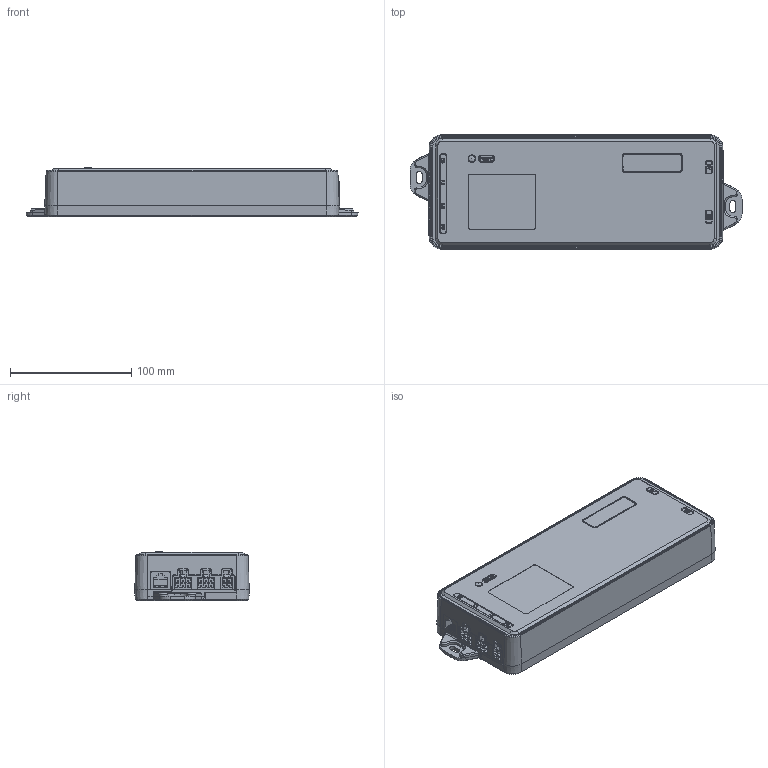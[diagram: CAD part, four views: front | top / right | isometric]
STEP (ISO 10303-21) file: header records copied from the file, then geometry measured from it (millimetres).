
FILE_DESCRIPTION(/* description */ ('Unknown'),/* implementation_level */ '2;1');
FILE_NAME(/* name */ '124.00802_00',/* time_stamp */ '2026-02-25T15:24:29+01:00',/* author */ ('Unknown'),/* organization */ ('Unknown'),/* preprocessor_version */ 'ST-DEVELOPER v20',/* originating_system */ 'Solid Edge',/* authorisation */ 'Unknown');
FILE_SCHEMA (('AUTOMOTIVE_DESIGN {1 0 10303 214 3 1 1}'));
Products named in the file (3): 124.00802; S1; SF9_01
Assembly tree (2 placements, depth 2):
  124.00802
    S1
    SF9_01
Bounding box: 274.09 x 94.39 x 40.5 mm (x, y, z)
Volume: 216720.4 mm3; surface area: 173843.4 mm2
Topology: 9 solids, 10 shells, 2531 faces, 6825 edges, 4515 vertices
Faces by surface type: plane 1745, bspline 371, cylinder 201, cone 163, torus 48, sphere 3
Full cylindrical faces by diameter (mm): 2.36 x2, 3.5 x6, 3.55 x2, 3.9 x2, 4.36 x2, 5.9 x2
Entity records: 95073 total; most frequent: CARTESIAN_POINT 24970, ORIENTED_EDGE 13584, DIRECTION 10481, EDGE_CURVE 6792, LINE 4677, VECTOR 4677, VERTEX_POINT 4508, AXIS2_PLACEMENT_3D 2902
